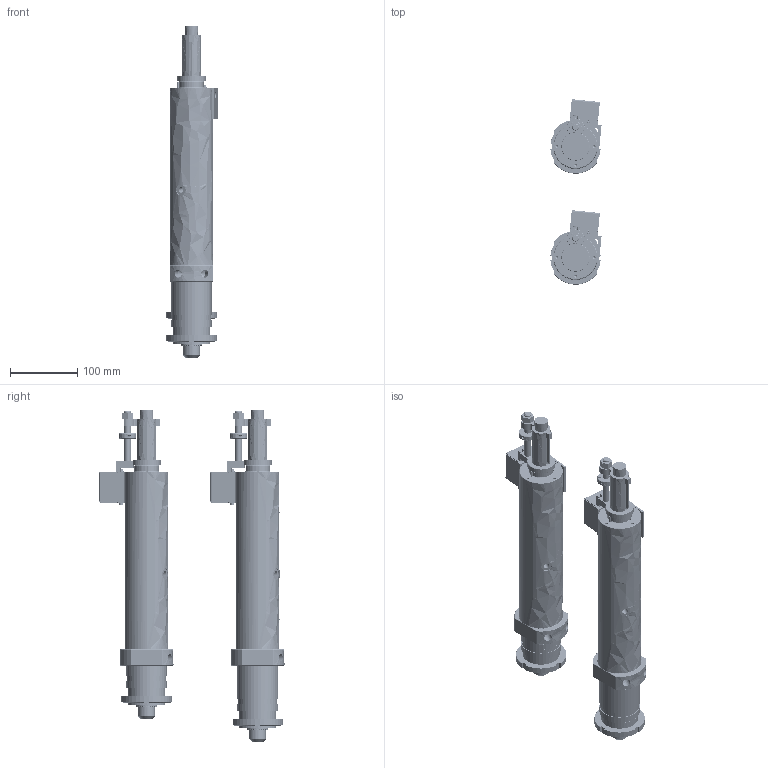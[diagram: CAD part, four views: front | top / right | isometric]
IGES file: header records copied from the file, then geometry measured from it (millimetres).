
Start section: SolidWorks IGES file using analytic representation for surfaces
Global section: file name: R:\Inventor\Kundmodeller Solidworks\BE33\BE 335-3313 and 3326-33210 with limit impulsers.IGS; native system: SolidWorks 2008; preprocessor: SolidWorks 2008; author: Johan; date: 090707.115459; units: millimetre
Bounding box: 76.14 x 275.09 x 493.4 mm (x, y, z)
Surface area: 457489 mm2 (no closed solid volume)
Topology: 0 solids, 0 shells, 3800 faces, 31014 edges, 30942 vertices
Faces by surface type: revolution 2790, bspline 1010
